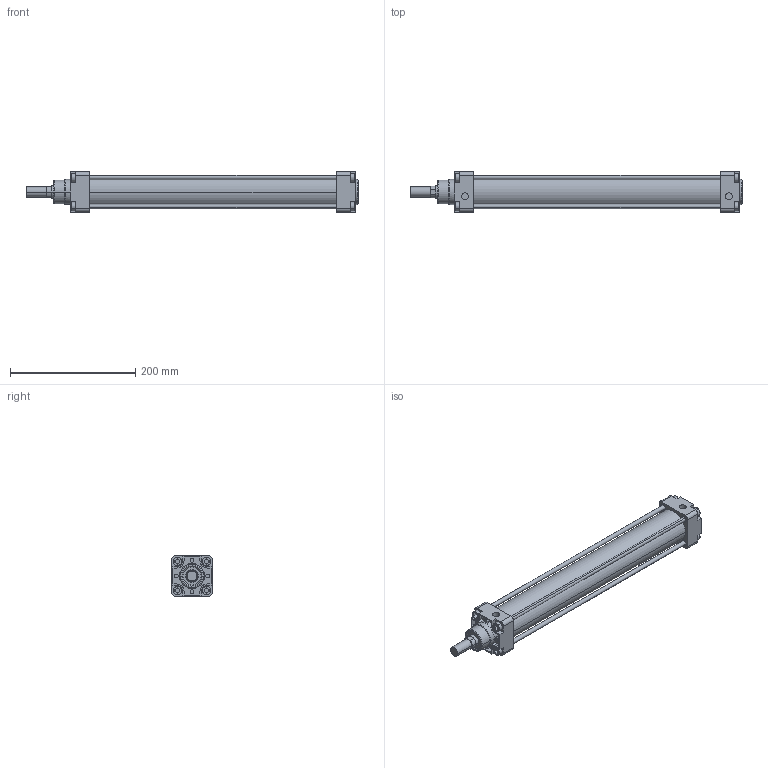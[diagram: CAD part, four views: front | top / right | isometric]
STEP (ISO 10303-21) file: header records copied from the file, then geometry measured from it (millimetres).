
FILE_DESCRIPTION(('CATIA V5 STEP Exchange'),'2;1');
FILE_NAME('D:\stp file for catalog\PNC\50\PNC 50-20-350.stp','2015-10-14T12:44:20+00:00',('none'),('none'),'Version 5-6 Release 2012','CATIA V5 STEP AP203','none');
FILE_SCHEMA(('CONFIG_CONTROL_DESIGN'));
Length unit declared in the file: millimetre
Products named in the file (1): PNC 50-20-350-00
Assembly tree (2 placements, depth 2):
  PNC 50-20-350-00
    #58
    #14116
Bounding box: 531 x 65 x 65 mm (x, y, z)
Volume: 642705.1 mm3; surface area: 269850.8 mm2
Topology: 6 solids, 6 shells, 536 faces, 1334 edges, 870 vertices
Faces by surface type: plane 324, cylinder 168, torus 26, extrusion 16, cone 2
Entity records: 14540 total; most frequent: CARTESIAN_POINT 2873, ORIENTED_EDGE 2668, DIRECTION 1792, EDGE_CURVE 1334, VECTOR 878, VERTEX_POINT 870, LINE 862, AXIS2_PLACEMENT_3D 661
